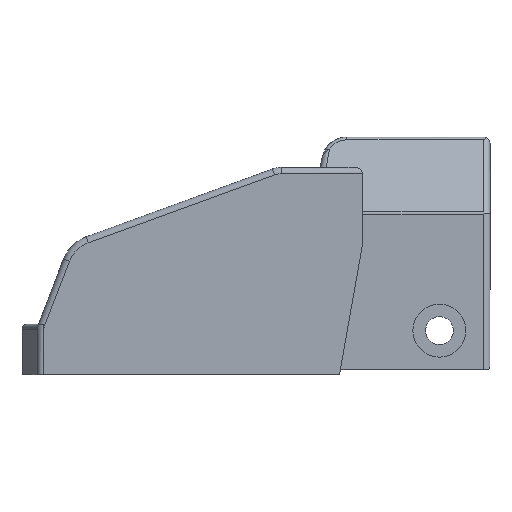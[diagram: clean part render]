
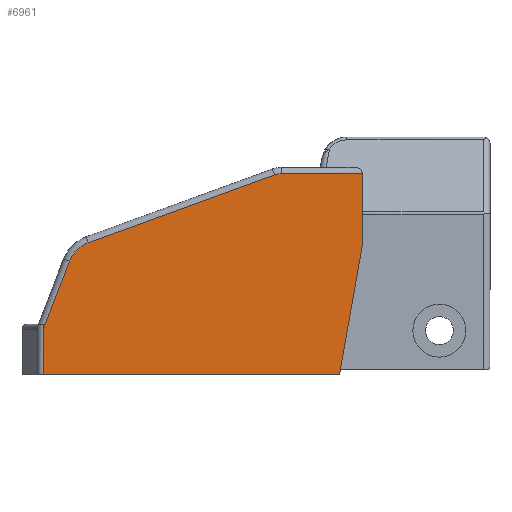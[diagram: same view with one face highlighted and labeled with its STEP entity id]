
A CAD part, left-side view. The second image highlights one B-rep face of the part: STEP entity #6961.
In plain terms, the highlighted planar face has unit normal (-1, 0, 0).
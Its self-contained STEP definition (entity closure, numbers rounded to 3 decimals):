
#13 = AXIS2_PLACEMENT_3D ( 'NONE', #5605, #7156, #4948 ) ;
#33 = VECTOR ( 'NONE', #693, 1000. ) ;
#109 = DIRECTION ( 'NONE',  ( 0., 0., -1. ) ) ;
#124 = ORIENTED_EDGE ( 'NONE', *, *, #7874, .F. ) ;
#147 = CARTESIAN_POINT ( 'NONE',  ( -39., 176.539, 16.132 ) ) ;
#227 = DIRECTION ( 'NONE',  ( 0., 0.174, -0.985 ) ) ;
#465 = ORIENTED_EDGE ( 'NONE', *, *, #1270, .T. ) ;
#472 = DIRECTION ( 'NONE',  ( 0., 0., 1. ) ) ;
#534 = CARTESIAN_POINT ( 'NONE',  ( -39., 183., 16. ) ) ;
#693 = DIRECTION ( 'NONE',  ( 0., 0.94, -0.342 ) ) ;
#819 = LINE ( 'NONE', #2116, #33 ) ;
#904 = VECTOR ( 'NONE', #4026, 1000. ) ;
#959 = EDGE_CURVE ( 'NONE', #7743, #9184, #5056, .T. ) ;
#1270 = EDGE_CURVE ( 'NONE', #5285, #2038, #6292, .T. ) ;
#1284 = LINE ( 'NONE', #2387, #3316 ) ;
#1427 = LINE ( 'NONE', #4932, #3589 ) ;
#1624 = CARTESIAN_POINT ( 'NONE',  ( -39., 50.331, 77. ) ) ;
#1634 = ORIENTED_EDGE ( 'NONE', *, *, #4976, .T. ) ;
#1678 = DIRECTION ( 'NONE',  ( 0., 1., 0. ) ) ;
#1833 = VERTEX_POINT ( 'NONE', #8105 ) ;
#1858 = ORIENTED_EDGE ( 'NONE', *, *, #4182, .T. ) ;
#2038 = VERTEX_POINT ( 'NONE', #5461 ) ;
#2116 = CARTESIAN_POINT ( 'NONE',  ( -39., 158.85, 50.217 ) ) ;
#2144 = CARTESIAN_POINT ( 'NONE',  ( -39., 85.133, 77.048 ) ) ;
#2279 = EDGE_CURVE ( 'NONE', #2345, #7743, #1284, .T. ) ;
#2332 = ORIENTED_EDGE ( 'NONE', *, *, #7581, .T. ) ;
#2345 = VERTEX_POINT ( 'NONE', #7993 ) ;
#2387 = CARTESIAN_POINT ( 'NONE',  ( -39., 50.331, 50. ) ) ;
#2696 = CARTESIAN_POINT ( 'NONE',  ( -39., 154.575, 38.471 ) ) ;
#2755 = DIRECTION ( 'NONE',  ( 0., 0., -1. ) ) ;
#2981 = CARTESIAN_POINT ( 'NONE',  ( -39., 50.373, 77.5 ) ) ;
#3080 = EDGE_CURVE ( 'NONE', #5285, #8414, #6618, .T. ) ;
#3316 = VECTOR ( 'NONE', #227, 1000. ) ;
#3330 = VECTOR ( 'NONE', #109, 1000. ) ;
#3366 = VERTEX_POINT ( 'NONE', #147 ) ;
#3416 = CIRCLE ( 'NONE', #4512, 12.5 ) ;
#3456 = LINE ( 'NONE', #1624, #3330 ) ;
#3502 = EDGE_CURVE ( 'NONE', #1833, #6032, #3416, .T. ) ;
#3589 = VECTOR ( 'NONE', #2755, 1000. ) ;
#3931 = DIRECTION ( 'NONE',  ( 0., 1., 0. ) ) ;
#3947 = ORIENTED_EDGE ( 'NONE', *, *, #3080, .F. ) ;
#3988 = CARTESIAN_POINT ( 'NONE',  ( -39., 174.205, 22.212 ) ) ;
#4026 = DIRECTION ( 'NONE',  ( 0., 0.358, -0.934 ) ) ;
#4144 = FACE_OUTER_BOUND ( 'NONE', #5622, .T. ) ;
#4182 = EDGE_CURVE ( 'NONE', #6032, #3366, #7612, .T. ) ;
#4193 = ORIENTED_EDGE ( 'NONE', *, *, #3502, .T. ) ;
#4512 = AXIS2_PLACEMENT_3D ( 'NONE', #2696, #8462, #4896 ) ;
#4896 = DIRECTION ( 'NONE',  ( 0., 0., 1. ) ) ;
#4932 = CARTESIAN_POINT ( 'NONE',  ( -39., 176.539, -2. ) ) ;
#4948 = DIRECTION ( 'NONE',  ( 0., 0., 1. ) ) ;
#4976 = EDGE_CURVE ( 'NONE', #2038, #9411, #8380, .T. ) ;
#4989 = ORIENTED_EDGE ( 'NONE', *, *, #959, .F. ) ;
#5056 = LINE ( 'NONE', #6932, #6305 ) ;
#5123 = CARTESIAN_POINT ( 'NONE',  ( -39., 59.5, -2. ) ) ;
#5146 = CARTESIAN_POINT ( 'NONE',  ( -39., 82.568, 70. ) ) ;
#5185 = CARTESIAN_POINT ( 'NONE',  ( -39., 82.568, 77.5 ) ) ;
#5285 = VERTEX_POINT ( 'NONE', #2981 ) ;
#5461 = CARTESIAN_POINT ( 'NONE',  ( -39., 82.568, 77.5 ) ) ;
#5604 = PLANE ( 'NONE',  #6769 ) ;
#5605 = CARTESIAN_POINT ( 'NONE',  ( -39., 53.331, 77. ) ) ;
#5622 = EDGE_LOOP ( 'NONE', ( #3947, #465, #1634, #7591, #4193, #1858, #2332, #4989, #9288, #124 ) ) ;
#6032 = VERTEX_POINT ( 'NONE', #7877 ) ;
#6292 = LINE ( 'NONE', #5185, #7788 ) ;
#6305 = VECTOR ( 'NONE', #3931, 1000. ) ;
#6618 = CIRCLE ( 'NONE', #13, 3. ) ;
#6769 = AXIS2_PLACEMENT_3D ( 'NONE', #534, #7756, #8505 ) ;
#6830 = CARTESIAN_POINT ( 'NONE',  ( -39., 50.331, 77. ) ) ;
#6932 = CARTESIAN_POINT ( 'NONE',  ( -39., 59.5, -2. ) ) ;
#6961 = ADVANCED_FACE ( 'NONE', ( #4144 ), #5604, .T. ) ;
#7156 = DIRECTION ( 'NONE',  ( 1., 0., 0. ) ) ;
#7160 = AXIS2_PLACEMENT_3D ( 'NONE', #5146, #9193, #472 ) ;
#7581 = EDGE_CURVE ( 'NONE', #3366, #9184, #1427, .T. ) ;
#7591 = ORIENTED_EDGE ( 'NONE', *, *, #8625, .T. ) ;
#7612 = LINE ( 'NONE', #3988, #904 ) ;
#7743 = VERTEX_POINT ( 'NONE', #5123 ) ;
#7756 = DIRECTION ( 'NONE',  ( -1., 0., 0. ) ) ;
#7788 = VECTOR ( 'NONE', #1678, 1000. ) ;
#7874 = EDGE_CURVE ( 'NONE', #8414, #2345, #3456, .T. ) ;
#7877 = CARTESIAN_POINT ( 'NONE',  ( -39., 166.245, 42.95 ) ) ;
#7993 = CARTESIAN_POINT ( 'NONE',  ( -39., 50.331, 50. ) ) ;
#8105 = CARTESIAN_POINT ( 'NONE',  ( -39., 158.85, 50.217 ) ) ;
#8151 = CARTESIAN_POINT ( 'NONE',  ( -39., 176.539, -2. ) ) ;
#8380 = CIRCLE ( 'NONE', #7160, 7.5 ) ;
#8414 = VERTEX_POINT ( 'NONE', #6830 ) ;
#8462 = DIRECTION ( 'NONE',  ( -1., 0., 0. ) ) ;
#8505 = DIRECTION ( 'NONE',  ( 0., 0., -1. ) ) ;
#8625 = EDGE_CURVE ( 'NONE', #9411, #1833, #819, .T. ) ;
#9184 = VERTEX_POINT ( 'NONE', #8151 ) ;
#9193 = DIRECTION ( 'NONE',  ( -1., 0., 0. ) ) ;
#9288 = ORIENTED_EDGE ( 'NONE', *, *, #2279, .F. ) ;
#9411 = VERTEX_POINT ( 'NONE', #2144 ) ;
